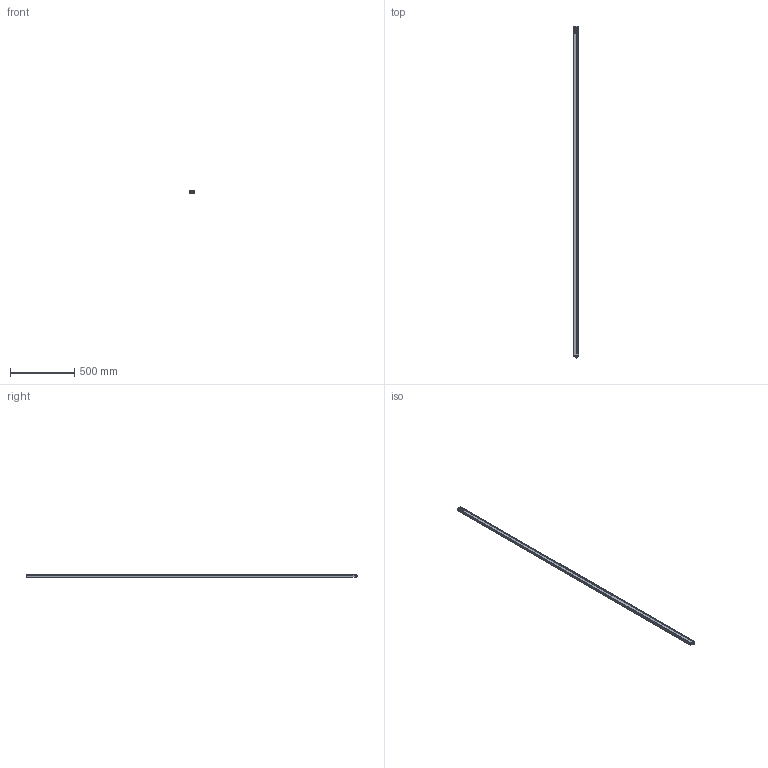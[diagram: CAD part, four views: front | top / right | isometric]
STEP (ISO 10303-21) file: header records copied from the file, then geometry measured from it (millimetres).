
FILE_DESCRIPTION(/* description */ (''),/* implementation_level */ '2;1');
FILE_NAME(/* name */ 'C:\Users\andre\SynologyDrive\Optoscan\Libreria Componenti\00 - Barriere\Barriera sorgente\Argo_2560_RX.stp',/* time_stamp */ '2021-04-22T12:34:04+02:00',/* author */ ('andre'),/* organization */ (''),/* preprocessor_version */ 'ST-DEVELOPER v18',/* originating_system */ 'Autodesk Inventor 2020',/* authorisation */ '');
FILE_SCHEMA (('AUTOMOTIVE_DESIGN { 1 0 10303 214 3 1 1 }'));
Length unit declared in the file: millimetre
Products named in the file (1): Argo_2560_RX
Bounding box: 40.5 x 2593.3 x 20.75 mm (x, y, z)
Volume: 509419.7 mm3; surface area: 677561.3 mm2
Topology: 1 solids, 1 shells, 692 faces, 1898 edges, 1217 vertices
Faces by surface type: plane 319, cylinder 195, bspline 94, torus 70, cone 8, sphere 6
Full cylindrical faces by diameter (mm): 1 x4, 2.459 x4, 2.5 x4, 3 x4, 3.5 x4, 5.5 x4, 8 x1, 10.5 x2, 11.75 x9, 15.7 x1, 17.5 x1
Entity records: 28165 total; most frequent: CARTESIAN_POINT 10195, ORIENTED_EDGE 3778, DIRECTION 3387, EDGE_CURVE 1889, VERTEX_POINT 1217, AXIS2_PLACEMENT_3D 1183, LINE 1021, VECTOR 1021
